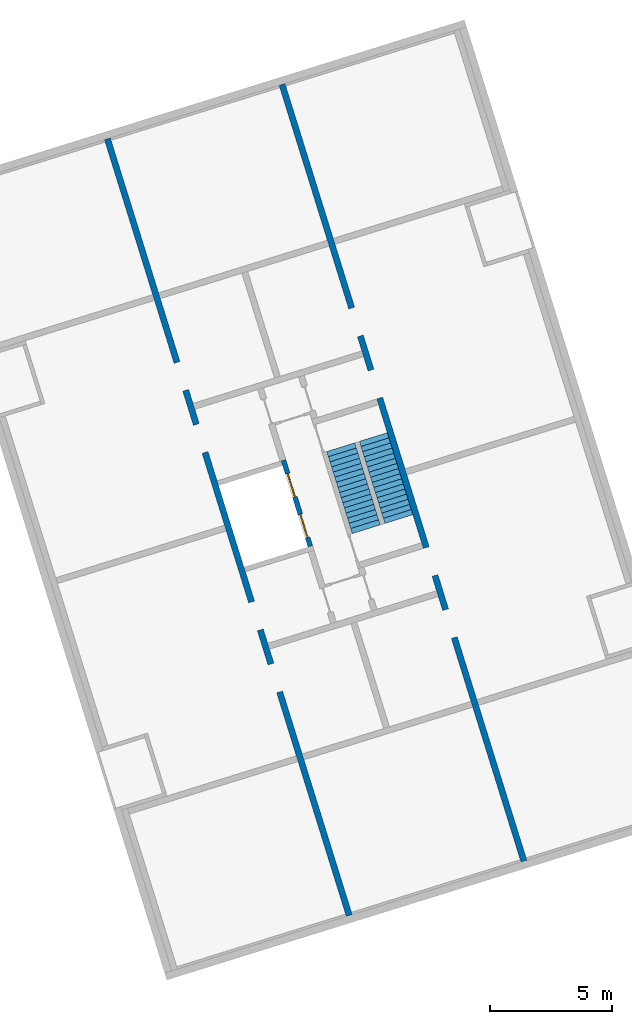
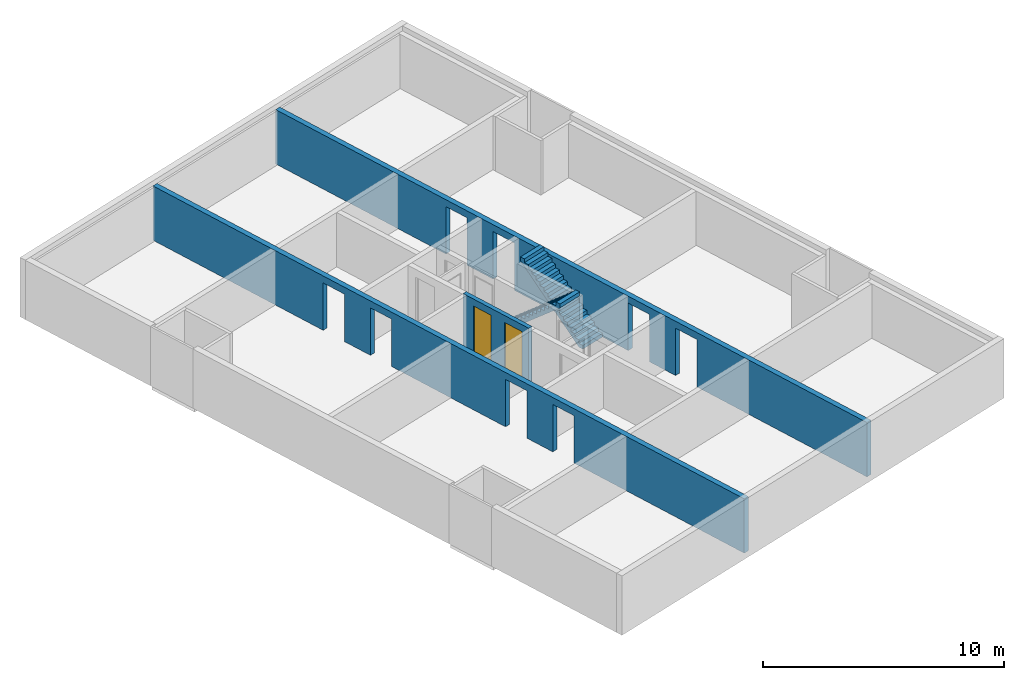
# One storey, part 4 of 4: 3 walls, 2 doors, 2 stair flights, 10 openings, 2 elements without a shape of their own.
"""IFC4 building model written with IfcOpenShell, lengths in metres."""

from ifc_helpers import new_model, entity, si_unit, converted_unit, direction, frame, origin, place, context, subcontext, project, spatial, indexed_curve, outline, extrude, polygons, source, transform, mapped, material, type_object, type_shapes, element, fill, aggregate, save


model = new_model("IFC4")

# Units and contexts
model_context = context("Model", 3, precision=1e-05, world=origin(), true_north=direction((6.12323399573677e-17, 1.0)))
body_context = subcontext(model_context, "Body", "Model", "MODEL_VIEW")
ifc_project = project(units=[si_unit("LENGTHUNIT", "METRE"), si_unit("AREAUNIT", "SQUARE_METRE"), si_unit("VOLUMEUNIT", "CUBIC_METRE"), converted_unit("PLANEANGLEUNIT", "DEGREE", entity("IfcPlaneAngleMeasure", 0.0174532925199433), si_unit("PLANEANGLEUNIT", "RADIAN"), dimensions=[0, 0, 0, 0, 0, 0, 0])], contexts=[model_context])

# Site, building, storey
site_placement = place(None, frame((13.1347999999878, 11.9886000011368, 0.0), z_axis=(0.0, 0.0, 1.0), x_axis=(0.954770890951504, 0.297342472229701, 0.0)))
site = spatial("IfcSite", under=ifc_project, at=site_placement, Name="Schiehaven", CompositionType="ELEMENT")
building_placement = place(site_placement, origin())
building = spatial("IfcBuilding", under=site, at=building_placement, Name="VORM huis", CompositionType="ELEMENT")
storey_placement = place(building_placement, frame((0.0, 0.0, 3.9)))
storey = spatial("IfcBuildingStorey", under=building, at=storey_placement, Name="01 eerste verdieping", CompositionType="ELEMENT", Elevation=3.9)

# Wall, openings
ifc_material_1 = material(Name="beton_gewapend_ihw", Category="Miscellaneous")
wall_type_1 = type_object("IfcWallType", Name="Basic Wall:28_WA_skelet_wand 250mm_gen", PredefinedType="STANDARD")
wall_1_placement = place(storey_placement, frame((12.5, 0.374999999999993, 0.0), z_axis=(0.0, 0.0, 1.0), x_axis=(0.0, 1.0, 0.0)))
wall_1 = element("IfcWall", 1, at=wall_1_placement, inside=storey, type_object=wall_type_1, material=ifc_material_1, Name="Constructieve wand", ObjectType="Wand", PredefinedType="NOTDEFINED", context=body_context, shape_type="Tessellation", body=[
    polygons([(33.3500000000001, -0.125, -5.41433564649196e-16), (33.3500000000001, -0.125, 2.75), (21.95, -0.124999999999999, 2.75), (21.7, -0.124999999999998, 2.75), (11.65, -0.124999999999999, 2.75), (11.4, -0.124999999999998, 2.75), (2.70716782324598e-16, -0.125, 2.75), (2.70716782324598e-16, -0.125, -5.41433564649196e-16), (9.60000000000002, -0.124999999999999, -5.41433564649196e-16), (9.60000000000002, -0.124999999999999, 2.4), (10.8, -0.124999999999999, 2.4), (10.8, -0.124999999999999, -5.41433564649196e-16), (11.4, -0.124999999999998, 0.0), (11.65, -0.124999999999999, 0.0), (12.265, -0.125, -5.41433564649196e-16), (12.265, -0.125, 2.4), (13.465, -0.124999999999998, 2.4), (13.465, -0.125000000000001, -5.41433564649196e-16), (19.885, -0.124999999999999, -5.41433564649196e-16), (19.885, -0.124999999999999, 2.4), (21.085, -0.124999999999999, 2.4), (21.085, -0.124999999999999, -5.41433564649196e-16), (21.7, -0.124999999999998, 0.0), (21.95, -0.124999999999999, 0.0), (22.55, -0.125, -5.41433564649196e-16), (22.55, -0.125, 2.4), (23.75, -0.124999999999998, 2.4), (23.75, -0.124999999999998, -5.41433564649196e-16), (33.3500000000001, 0.125, 2.75), (33.3500000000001, 0.125, -5.41433564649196e-16), (23.75, 0.125000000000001, -5.41433564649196e-16), (23.75, 0.125000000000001, 2.4), (22.55, 0.124999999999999, 2.4), (22.55, 0.124999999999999, -5.41433564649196e-16), (21.085, 0.125, -5.41433564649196e-16), (21.085, 0.125, 2.4), (19.885, 0.125, 2.4), (19.885, 0.125, -5.41433564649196e-16), (13.465, 0.125000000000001, -5.41433564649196e-16), (13.465, 0.125000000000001, 2.4), (12.265, 0.124999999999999, 2.4), (12.265, 0.124999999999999, -5.41433564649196e-16), (10.8, 0.125, -5.41433564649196e-16), (10.8, 0.125, 2.4), (9.60000000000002, 0.125, 2.4), (9.60000000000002, 0.125, -5.41433564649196e-16), (6.76791955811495e-17, 0.125, -5.41433564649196e-16), (6.76791955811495e-17, 0.125, 2.75)], [[[1, 2, 3, 4, 5, 6, 7, 8, 9, 10, 11, 12, 13, 14, 15, 16, 17, 18, 19, 20, 21, 22, 23, 24, 25, 26, 27, 28]], [[29, 30, 31, 32, 33, 34, 35, 36, 37, 38, 39, 40, 41, 42, 43, 44, 45, 46, 47, 48]], [[8, 47, 46, 9]], [[2, 1, 30, 29]], [[7, 6, 5, 4, 3, 2, 29, 48]], [[8, 7, 48, 47]], [[45, 10, 9, 46]], [[11, 44, 43, 12]], [[10, 45, 44, 11]], [[16, 41, 40, 17]], [[41, 16, 15, 42]], [[17, 40, 39, 18]], [[20, 37, 36, 21]], [[37, 20, 19, 38]], [[21, 36, 35, 22]], [[26, 33, 32, 27]], [[33, 26, 25, 34]], [[27, 32, 31, 28]], [[12, 43, 42, 15, 14, 13]], [[18, 39, 38, 19]], [[22, 35, 34, 25, 24, 23]], [[30, 1, 28, 31]]], closed=True),
])
opening_1_placement = place(wall_1_placement, origin())
element("IfcOpeningElement", 2, at=opening_1_placement, cuts=wall_1, Name="Constructieve wand", PredefinedType="OPENING", context=body_context, shape_type="SweptSolid", body=[
    extrude(outline(indexed_curve([(-1.2, -0.599999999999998), (1.2, -0.599999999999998), (1.2, 0.599999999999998), (-1.2, 0.599999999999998), (-1.2, -0.599999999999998)], self_intersect=False)), frame((10.2, -0.124999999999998, 1.2), z_axis=(0.0, 1.0, 0.0), x_axis=(0.0, 0.0, -1.0)), (0.0, 0.0, 1.0), 0.249999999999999),
])
opening_2_placement = place(wall_1_placement, origin())
element("IfcOpeningElement", 3, at=opening_2_placement, cuts=wall_1, Name="Constructieve wand", PredefinedType="OPENING", context=body_context, shape_type="SweptSolid", body=[
    extrude(outline(indexed_curve([(-1.2, -0.599999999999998), (1.2, -0.599999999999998), (1.2, 0.599999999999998), (-1.2, 0.599999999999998), (-1.2, -0.599999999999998)], self_intersect=False)), frame((12.865, -0.124999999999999, 1.2), z_axis=(0.0, 1.0, 0.0), x_axis=(0.0, 0.0, -1.0)), (0.0, 0.0, 1.0), 0.249999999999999),
])
opening_3_placement = place(wall_1_placement, origin())
element("IfcOpeningElement", 4, at=opening_3_placement, cuts=wall_1, Name="Constructieve wand", PredefinedType="OPENING", context=body_context, shape_type="SweptSolid", body=[
    extrude(outline(indexed_curve([(-1.2, -0.599999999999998), (1.2, -0.599999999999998), (1.2, 0.599999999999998), (-1.2, 0.599999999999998), (-1.2, -0.599999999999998)], self_intersect=False)), frame((20.485, -0.125, 1.2), z_axis=(0.0, 1.0, 0.0), x_axis=(0.0, 0.0, -1.0)), (0.0, 0.0, 1.0), 0.249999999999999),
])
opening_4_placement = place(wall_1_placement, origin())
element("IfcOpeningElement", 5, at=opening_4_placement, cuts=wall_1, Name="Constructieve wand", PredefinedType="OPENING", context=body_context, shape_type="SweptSolid", body=[
    extrude(outline(indexed_curve([(-1.2, -0.599999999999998), (1.2, -0.599999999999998), (1.2, 0.599999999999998), (-1.2, 0.599999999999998), (-1.2, -0.599999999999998)], self_intersect=False)), frame((23.15, -0.124999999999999, 1.2), z_axis=(0.0, 1.0, 0.0), x_axis=(0.0, 0.0, -1.0)), (0.0, 0.0, 1.0), 0.249999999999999),
])

wall_2_placement = place(storey_placement, frame((20.0, 33.725, 0.0), z_axis=(0.0, 0.0, 1.0), x_axis=(0.0, -1.0, 0.0)))
wall_2 = element("IfcWall", 6, at=wall_2_placement, inside=storey, type_object=wall_type_1, material=ifc_material_1, Name="Constructieve wand", ObjectType="Wand", PredefinedType="NOTDEFINED", context=body_context, shape_type="Tessellation", body=[
    polygons([(33.35, -0.124999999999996, -5.41433564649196e-16), (33.35, -0.124999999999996, 2.75), (21.95, -0.124999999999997, 2.75), (21.7, -0.124999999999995, 2.75), (11.65, -0.124999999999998, 2.75), (11.4, -0.124999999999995, 2.75), (-4.33146851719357e-15, -0.124999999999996, 2.75), (-4.33146851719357e-15, -0.124999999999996, -5.41433564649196e-16), (9.60000000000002, -0.124999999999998, -5.41433564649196e-16), (9.60000000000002, -0.125000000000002, 2.4), (10.8, -0.124999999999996, 2.4), (10.8, -0.124999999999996, -5.41433564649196e-16), (11.4, -0.124999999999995, 0.0), (11.65, -0.124999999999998, 0.0), (12.265, -0.124999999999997, -5.41433564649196e-16), (12.265, -0.124999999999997, 2.4), (13.465, -0.124999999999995, 2.4), (13.465, -0.124999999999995, -5.41433564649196e-16), (19.885, -0.124999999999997, -5.41433564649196e-16), (19.885, -0.125000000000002, 2.4), (21.085, -0.124999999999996, 2.4), (21.085, -0.124999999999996, -5.41433564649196e-16), (21.7, -0.124999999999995, 0.0), (21.95, -0.124999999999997, 0.0), (22.55, -0.124999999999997, -5.41433564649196e-16), (22.55, -0.124999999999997, 2.4), (23.75, -0.124999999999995, 2.4), (23.75, -0.124999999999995, -5.41433564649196e-16), (33.35, 0.125000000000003, 2.75), (33.35, 0.125000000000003, -5.41433564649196e-16), (23.75, 0.125000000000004, -5.41433564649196e-16), (23.75, 0.125000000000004, 2.4), (22.55, 0.125000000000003, 2.4), (22.55, 0.125000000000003, -5.41433564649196e-16), (21.085, 0.125000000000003, -5.41433564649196e-16), (21.085, 0.125000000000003, 2.4), (19.885, 0.125000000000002, 2.4), (19.885, 0.125000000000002, -5.41433564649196e-16), (13.465, 0.125000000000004, -5.41433564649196e-16), (13.465, 0.125000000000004, 2.4), (12.265, 0.125000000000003, 2.4), (12.265, 0.125000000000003, -5.41433564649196e-16), (10.8, 0.125000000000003, -5.41433564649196e-16), (10.8, 0.125000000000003, 2.4), (9.60000000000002, 0.125000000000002, 2.4), (9.60000000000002, 0.125000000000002, -5.41433564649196e-16), (-4.33146851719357e-15, 0.125000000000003, -5.41433564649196e-16), (-4.33146851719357e-15, 0.125000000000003, 2.75)], [[[1, 2, 3, 4, 5, 6, 7, 8, 9, 10, 11, 12, 13, 14, 15, 16, 17, 18, 19, 20, 21, 22, 23, 24, 25, 26, 27, 28]], [[29, 30, 31, 32, 33, 34, 35, 36, 37, 38, 39, 40, 41, 42, 43, 44, 45, 46, 47, 48]], [[8, 47, 46, 9]], [[2, 1, 30, 29]], [[7, 6, 5, 4, 3, 2, 29, 48]], [[8, 7, 48, 47]], [[10, 45, 44, 11]], [[45, 10, 9, 46]], [[11, 44, 43, 12]], [[16, 41, 40, 17]], [[41, 16, 15, 42]], [[17, 40, 39, 18]], [[26, 33, 32, 27]], [[33, 26, 25, 34]], [[27, 32, 31, 28]], [[20, 37, 36, 21]], [[37, 20, 19, 38]], [[21, 36, 35, 22]], [[12, 43, 42, 15, 14, 13]], [[18, 39, 38, 19]], [[30, 1, 28, 31]], [[34, 25, 24, 23, 22, 35]]], closed=True),
])
opening_5_placement = place(wall_2_placement, origin())
element("IfcOpeningElement", 7, at=opening_5_placement, cuts=wall_2, Name="Constructieve wand", PredefinedType="OPENING", context=body_context, shape_type="SweptSolid", body=[
    extrude(outline(indexed_curve([(-1.2, -0.599999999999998), (1.2, -0.599999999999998), (1.2, 0.599999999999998), (-1.2, 0.599999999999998), (-1.2, -0.599999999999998)], self_intersect=False)), frame((10.2, -0.125000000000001, 1.2), z_axis=(0.0, 1.0, 0.0), x_axis=(0.0, 0.0, -1.0)), (0.0, 0.0, 1.0), 0.250000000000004),
])
opening_6_placement = place(wall_2_placement, origin())
element("IfcOpeningElement", 8, at=opening_6_placement, cuts=wall_2, Name="Constructieve wand", PredefinedType="OPENING", context=body_context, shape_type="SweptSolid", body=[
    extrude(outline(indexed_curve([(-1.2, -0.599999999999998), (1.2, -0.599999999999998), (1.2, 0.599999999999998), (-1.2, 0.599999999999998), (-1.2, -0.599999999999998)], self_intersect=False)), frame((12.865, -0.125, 1.2), z_axis=(0.0, 1.0, 0.0), x_axis=(0.0, 0.0, -1.0)), (0.0, 0.0, 1.0), 0.250000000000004),
])
opening_7_placement = place(wall_2_placement, origin())
element("IfcOpeningElement", 9, at=opening_7_placement, cuts=wall_2, Name="Constructieve wand", PredefinedType="OPENING", context=body_context, shape_type="SweptSolid", body=[
    extrude(outline(indexed_curve([(-1.2, -0.599999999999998), (1.2, -0.599999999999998), (1.2, 0.599999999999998), (-1.2, 0.599999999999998), (-1.2, -0.599999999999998)], self_intersect=False)), frame((23.15, -0.125, 1.2), z_axis=(0.0, 1.0, 0.0), x_axis=(0.0, 0.0, -1.0)), (0.0, 0.0, 1.0), 0.250000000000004),
])
opening_8_placement = place(wall_2_placement, origin())
element("IfcOpeningElement", 10, at=opening_8_placement, cuts=wall_2, Name="Constructieve wand", PredefinedType="OPENING", context=body_context, shape_type="SweptSolid", body=[
    extrude(outline(indexed_curve([(-1.2, -0.599999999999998), (1.2, -0.599999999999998), (1.2, 0.599999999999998), (-1.2, 0.599999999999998), (-1.2, -0.599999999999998)], self_intersect=False)), frame((20.485, -0.125000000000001, 1.2), z_axis=(0.0, 1.0, 0.0), x_axis=(0.0, 0.0, -1.0)), (0.0, 0.0, 1.0), 0.250000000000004),
])

# Wall, openings, doors
ifc_material_2 = material(Name="beton_gewapend_prefab-element", Category="Miscellaneous")
wall_type_2 = type_object("IfcWallType", Name="Basic Wall:28_WA_skelet_wand 200mm_gen", PredefinedType="STANDARD")
wall_3_placement = place(storey_placement, frame((15.4750000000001, 15.3, 0.0), z_axis=(0.0, 0.0, 1.0), x_axis=(0.0, 1.0, 0.0)))
wall_3 = element("IfcWall", 11, at=wall_3_placement, inside=storey, type_object=wall_type_2, material=ifc_material_2, Name="Constructieve wand", ObjectType="Wand", PredefinedType="NOTDEFINED", context=body_context, shape_type="Tessellation", body=[
    polygons([(3.69999999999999, -0.100000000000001, 2.75), (0.0, -0.100000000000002, 2.75), (0.0, -0.100000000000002, -5.41433564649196e-16), (0.374999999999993, -0.0999999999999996, -5.41433564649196e-16), (0.374999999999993, -0.100000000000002, 2.39999999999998), (1.37499999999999, -0.100000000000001, 2.39999999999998), (1.37499999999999, -0.100000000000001, -5.41433564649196e-16), (2.125, -0.100000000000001, -5.41433564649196e-16), (2.125, -0.100000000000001, 2.39999999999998), (3.125, -0.100000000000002, 2.39999999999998), (3.12499999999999, -0.1, -5.41433564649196e-16), (3.69999999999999, -0.100000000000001, -5.41433564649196e-16), (2.16573425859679e-15, 0.0999999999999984, 2.75), (3.49999999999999, 0.0999999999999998, 2.75), (3.69999999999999, 0.0999999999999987, 2.75), (3.69999999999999, 0.0999999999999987, -5.41433564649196e-16), (3.49999999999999, 0.0999999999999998, 0.0), (3.125, 0.0999999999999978, -5.41433564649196e-16), (3.125, 0.0999999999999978, 2.39999999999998), (2.125, 0.0999999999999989, 2.39999999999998), (2.125, 0.0999999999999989, -5.41433564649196e-16), (1.37499999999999, 0.100000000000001, -5.41433564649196e-16), (1.37499999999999, 0.100000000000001, 2.39999999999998), (0.374999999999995, 0.0999999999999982, 2.39999999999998), (0.374999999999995, 0.0999999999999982, -5.41433564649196e-16), (0.0, 0.0999999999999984, -5.41433564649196e-16)], [[[1, 2, 3, 4, 5, 6, 7, 8, 9, 10, 11, 12]], [[13, 14, 15, 16, 17, 18, 19, 20, 21, 22, 23, 24, 25, 26]], [[3, 26, 25, 4]], [[2, 1, 15, 14, 13]], [[3, 2, 13, 26]], [[1, 12, 16, 15]], [[6, 23, 22, 7]], [[24, 5, 4, 25]], [[23, 6, 5, 24]], [[10, 19, 18, 11]], [[20, 9, 8, 21]], [[19, 10, 9, 20]], [[7, 22, 21, 8]], [[16, 12, 11, 18, 17]]], closed=True),
])
opening_9_placement = place(wall_3_placement, frame((-15.3, 15.4750000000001, 0.0), z_axis=(0.0, 0.0, 1.0), x_axis=(0.0, -1.0, 0.0)))
opening_9 = element("IfcOpeningElement", 12, at=opening_9_placement, cuts=wall_3, Name="Brandweerlift", PredefinedType="OPENING", context=body_context, shape_type="SweptSolid", body=[
    extrude(outline(indexed_curve([(-1.19999999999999, -0.499999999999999), (1.19999999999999, -0.499999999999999), (1.19999999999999, 0.500000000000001), (-1.19999999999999, 0.500000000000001), (-1.19999999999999, -0.499999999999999)], self_intersect=False)), frame((15.7436720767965, 16.175, 1.19999999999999), z_axis=(-1.0, 0.0, 0.0), x_axis=(0.0, 0.0, -1.0)), (0.0, 0.0, 1.0), 0.756310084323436),
])
opening_10_placement = place(wall_3_placement, frame((-15.3, 15.4750000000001, 0.0), z_axis=(0.0, 0.0, 1.0), x_axis=(0.0, -1.0, 0.0)))
opening_10 = element("IfcOpeningElement", 13, at=opening_10_placement, cuts=wall_3, Name="Brandweerlift", PredefinedType="OPENING", context=body_context, shape_type="SweptSolid", body=[
    extrude(outline(indexed_curve([(-1.19999999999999, -0.500000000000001), (1.19999999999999, -0.500000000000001), (1.19999999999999, 0.499999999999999), (-1.19999999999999, 0.499999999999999), (-1.19999999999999, -0.500000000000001)], self_intersect=False)), frame((15.7436720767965, 17.925, 1.19999999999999), z_axis=(-1.0, 0.0, 0.0), x_axis=(0.0, 0.0, -1.0)), (0.0, 0.0, 1.0), 0.756310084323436),
])
ifc_material_3 = material(Name="metaal_aluminium_ntb", Category="Miscellaneous")
door_type = type_object("IfcDoorType", Name="66_WI_liftdeur:brandweerlift - tweezijdig toegankelijk", OperationType="NOTDEFINED", PredefinedType="DOOR", material=ifc_material_3)
shared_shape = source(origin(), body_context, "Body", "SweptSolid", [
    extrude(outline(indexed_curve([(-0.0250000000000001, -0.25), (0.0249999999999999, -0.25), (0.0250000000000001, 0.25), (-0.0249999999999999, 0.25), (-0.0250000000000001, -0.25)], self_intersect=False)), frame((0.250000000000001, 0.487638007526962, 0.0), z_axis=(0.0, 0.0, 1.0), x_axis=(0.0, 1.0, 0.0)), (0.0, 0.0, 1.0), 2.39999999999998),
    extrude(outline(indexed_curve([(-0.0250000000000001, -0.25), (0.0249999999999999, -0.25), (0.0250000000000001, 0.25), (-0.0249999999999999, 0.25), (-0.0250000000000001, -0.25)], self_intersect=False)), frame((0.750000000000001, 0.48763800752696, 0.0), z_axis=(0.0, 0.0, 1.0), x_axis=(0.0, 1.0, 0.0)), (0.0, 0.0, 1.0), 2.39999999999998),
])
type_shapes(door_type, [shared_shape])
door_1_placement = place(opening_9_placement, frame((14.9873619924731, 16.675, 0.0), z_axis=(0.0, 0.0, 1.0), x_axis=(0.0, -1.0, 0.0)))
door_1 = element("IfcDoor", 14, at=door_1_placement, inside=storey, type_object=door_type, material=ifc_material_3, Name="Brandweerlift", ObjectType="Transport", OperationType="NOTDEFINED", OverallHeight=2.39999999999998, OverallWidth=1.0, PredefinedType="DOOR", context=body_context, shape_type="MappedRepresentation", body=[
    mapped(shared_shape, transform((0.0, 0.0, 0.0), scale=1.0)),
])
fill(opening_9, door_1)
door_2_placement = place(opening_10_placement, frame((14.9873619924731, 18.425, 0.0), z_axis=(0.0, 0.0, 1.0), x_axis=(0.0, -1.0, 0.0)))
door_2 = element("IfcDoor", 15, at=door_2_placement, inside=storey, type_object=door_type, material=ifc_material_3, Name="Brandweerlift", ObjectType="Transport", OperationType="NOTDEFINED", OverallHeight=2.39999999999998, OverallWidth=1.0, PredefinedType="DOOR", context=body_context, shape_type="MappedRepresentation", body=[
    mapped(shared_shape, transform((0.0, 0.0, 0.0), scale=1.0)),
])
fill(opening_10, door_2)

# Stair, stair flight
stair_type = type_object("IfcStairType", Name="Trap", PredefinedType="STRAIGHT_RUN_STAIR")
stair_1_placement = place(storey_placement, origin())
stair_1 = element("IfcStair", 16, at=stair_1_placement, inside=storey, type_object=stair_type, Name="Hoofdtrap", ObjectType="Trap", PredefinedType="STRAIGHT_RUN_STAIR")
stair_flight_type = type_object("IfcStairFlightType", Name="Monolithic Run:NLRS_24_STRR_trap-beton prefab-monolithisch-recht_gen_rsf", PredefinedType="STRAIGHT")
stair_flight_1_placement = place(stair_1_placement, frame((18.6750000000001, 15.29, 0.0)))
stair_flight_1 = element("IfcStairFlight", 17, at=stair_flight_1_placement, type_object=stair_flight_type, material=ifc_material_2, Name="Hoofdtrap Run 1", ObjectType="Monolithic Run:NLRS_24_STRR_trap-beton prefab-monolithisch-recht_gen_rsf", PredefinedType="STRAIGHT", context=body_context, shape_type="Tessellation", body=[
    polygons([(3.5527136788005e-15, 0.219999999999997, 0.1875), (0.0, -1.77635683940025e-15, 0.1875), (1.2, -1.77635683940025e-15, 0.1875), (1.2, 0.219999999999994, 0.1875), (3.5527136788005e-15, 0.220000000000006, -4.44089209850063e-16), (0.0, -1.77635683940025e-15, -4.44089209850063e-16), (1.2, -1.77635683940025e-15, -4.44089209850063e-16), (1.2, 0.219999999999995, -4.44089209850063e-16), (3.5527136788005e-15, 0.44, 0.375), (0.0, 0.219999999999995, 0.375), (1.2, 0.219999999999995, 0.375), (1.2, 0.439999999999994, 0.375), (3.5527136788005e-15, 0.44, 0.177912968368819), (3.5527136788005e-15, 0.231248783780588, 8.88178419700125e-16), (1.2, 0.231248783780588, 8.88178419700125e-16), (1.2, 0.439999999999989, 0.177912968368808), (3.5527136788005e-15, 0.659999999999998, 0.5625), (3.5527136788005e-15, 0.44, 0.5625), (1.20000000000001, 0.44, 0.5625), (1.20000000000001, 0.659999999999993, 0.5625), (7.105427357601e-15, 0.660000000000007, 0.365412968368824), (1.20000000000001, 0.659999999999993, 0.365412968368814), (3.5527136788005e-15, 0.880000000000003, 0.75), (3.5527136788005e-15, 0.659999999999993, 0.75), (1.20000000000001, 0.659999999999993, 0.75), (1.20000000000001, 0.879999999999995, 0.75), (7.105427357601e-15, 0.880000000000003, 0.55291296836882), (1.20000000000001, 0.879999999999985, 0.552912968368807), (7.105427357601e-15, 1.1, 0.9375), (7.105427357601e-15, 0.880000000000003, 0.9375), (1.20000000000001, 0.880000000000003, 0.9375), (1.20000000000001, 1.09999999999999, 0.9375), (7.105427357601e-15, 1.10000000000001, 0.740412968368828), (1.20000000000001, 1.1, 0.740412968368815), (7.105427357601e-15, 1.32, 1.125), (7.105427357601e-15, 1.09999999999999, 1.125), (1.20000000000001, 1.09999999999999, 1.125), (1.20000000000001, 1.31999999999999, 1.125), (7.105427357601e-15, 1.32, 0.92791296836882), (1.20000000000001, 1.31999999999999, 0.927912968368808), (1.06581410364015e-14, 1.54, 1.3125), (7.105427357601e-15, 1.32, 1.3125), (1.20000000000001, 1.32, 1.3125), (1.20000000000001, 1.54, 1.3125), (1.06581410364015e-14, 1.54000000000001, 1.11541296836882), (1.20000000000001, 1.54, 1.11541296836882), (1.06581410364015e-14, 1.76, 1.5), (7.105427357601e-15, 1.54, 1.5), (1.20000000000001, 1.54, 1.5), (1.20000000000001, 1.75999999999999, 1.5), (1.06581410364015e-14, 1.75999999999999, 1.30291296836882), (1.20000000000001, 1.75999999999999, 1.30291296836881), (1.06581410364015e-14, 1.98, 1.6875), (1.06581410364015e-14, 1.76, 1.6875), (1.20000000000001, 1.76, 1.6875), (1.20000000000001, 1.97999999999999, 1.6875), (1.06581410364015e-14, 1.98000000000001, 1.49041296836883), (1.20000000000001, 1.98, 1.49041296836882), (1.06581410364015e-14, 2.2, 1.875), (1.06581410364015e-14, 1.97999999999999, 1.875), (1.20000000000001, 1.97999999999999, 1.875), (1.20000000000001, 2.19999999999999, 1.875), (1.06581410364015e-14, 2.2, 1.67791296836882), (1.20000000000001, 2.19999999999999, 1.67791296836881), (1.4210854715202e-14, 2.42, 2.0625), (1.06581410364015e-14, 2.2, 2.0625), (1.20000000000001, 2.2, 2.0625), (1.20000000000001, 2.41999999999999, 2.0625), (1.06581410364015e-14, 2.42000000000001, 1.86541296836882), (1.20000000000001, 2.42, 1.86541296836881), (1.4210854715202e-14, 2.64, 2.25), (1.06581410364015e-14, 2.41999999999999, 2.25), (1.20000000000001, 2.41999999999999, 2.25), (1.20000000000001, 2.63999999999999, 2.25), (1.06581410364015e-14, 2.64, 2.05291296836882), (1.20000000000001, 2.63999999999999, 2.05291296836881), (1.4210854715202e-14, 2.86, 2.4375), (1.06581410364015e-14, 2.64, 2.4375), (1.20000000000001, 2.64, 2.4375), (1.20000000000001, 2.85999999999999, 2.4375), (1.4210854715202e-14, 2.86000000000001, 2.24041296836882), (1.20000000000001, 2.86, 2.24041296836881), (1.4210854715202e-14, 3.08, 2.625), (1.06581410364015e-14, 2.85999999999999, 2.625), (1.20000000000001, 2.85999999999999, 2.625), (1.20000000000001, 3.07999999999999, 2.625), (1.4210854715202e-14, 3.08, 2.42791296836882), (1.20000000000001, 3.07999999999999, 2.42791296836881), (1.77635683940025e-14, 3.3, 2.8125), (1.4210854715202e-14, 3.08, 2.8125), (1.20000000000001, 3.08, 2.8125), (1.20000000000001, 3.29999999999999, 2.8125), (1.77635683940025e-14, 3.30000000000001, 2.61541296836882), (1.20000000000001, 3.29999999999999, 2.61541296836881), (1.77635683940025e-14, 3.52, 3.0), (1.4210854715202e-14, 3.29999999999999, 3.0), (1.20000000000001, 3.29999999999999, 3.0), (1.20000000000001, 3.51999999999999, 3.0), (1.4210854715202e-14, 3.52, 2.80291296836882), (1.20000000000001, 3.51999999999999, 2.80291296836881)], [[[1, 2, 3, 4]], [[2, 1, 5, 6]], [[3, 2, 6, 7]], [[4, 3, 7, 8]], [[9, 10, 11, 12]], [[5, 1, 10, 9, 13, 14]], [[1, 4, 11, 10]], [[4, 8, 15, 16, 12, 11]], [[17, 18, 19, 20]], [[18, 17, 21, 13, 9]], [[9, 12, 19, 18]], [[20, 19, 12, 16, 22]], [[23, 24, 25, 26]], [[24, 23, 27, 21, 17]], [[17, 20, 25, 24]], [[26, 25, 20, 22, 28]], [[29, 30, 31, 32]], [[30, 29, 33, 27, 23]], [[23, 26, 31, 30]], [[32, 31, 26, 28, 34]], [[35, 36, 37, 38]], [[36, 35, 39, 33, 29]], [[29, 32, 37, 36]], [[38, 37, 32, 34, 40]], [[41, 42, 43, 44]], [[42, 41, 45, 39, 35]], [[35, 38, 43, 42]], [[44, 43, 38, 40, 46]], [[47, 48, 49, 50]], [[48, 47, 51, 45, 41]], [[41, 44, 49, 48]], [[50, 49, 44, 46, 52]], [[53, 54, 55, 56]], [[54, 53, 57, 51, 47]], [[47, 50, 55, 54]], [[56, 55, 50, 52, 58]], [[59, 60, 61, 62]], [[60, 59, 63, 57, 53]], [[53, 56, 61, 60]], [[62, 61, 56, 58, 64]], [[65, 66, 67, 68]], [[66, 65, 69, 63, 59]], [[59, 62, 67, 66]], [[68, 67, 62, 64, 70]], [[71, 72, 73, 74]], [[72, 71, 75, 69, 65]], [[65, 68, 73, 72]], [[74, 73, 68, 70, 76]], [[77, 78, 79, 80]], [[78, 77, 81, 75, 71]], [[71, 74, 79, 78]], [[80, 79, 74, 76, 82]], [[83, 84, 85, 86]], [[84, 83, 87, 81, 77]], [[77, 80, 85, 84]], [[86, 85, 80, 82, 88]], [[89, 90, 91, 92]], [[90, 89, 93, 87, 83]], [[83, 86, 91, 90]], [[92, 91, 86, 88, 94]], [[95, 96, 97, 98]], [[96, 95, 99, 93, 89]], [[89, 92, 97, 96]], [[98, 97, 92, 94, 100]], [[95, 98, 100, 99]], [[6, 5, 14, 15, 8, 7]], [[15, 14, 13, 21, 27, 33, 39, 45, 51, 57, 63, 69, 75, 81, 87, 93, 99, 100, 94, 88, 82, 76, 70, 64, 58, 52, 46, 40, 34, 28, 22, 16]]], closed=True),
])
aggregate(stair_1, [stair_flight_1])

stair_2_placement = place(storey_placement, origin())
stair_2 = element("IfcStair", 18, at=stair_2_placement, inside=storey, type_object=stair_type, Name="Hoofdtrap", ObjectType="Trap", PredefinedType="STRAIGHT_RUN_STAIR")
stair_flight_2_placement = place(stair_2_placement, frame((17.2750000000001, 15.29, 0.0)))
stair_flight_2 = element("IfcStairFlight", 19, at=stair_flight_2_placement, type_object=stair_flight_type, material=ifc_material_2, Name="Hoofdtrap Run 1", ObjectType="Monolithic Run:NLRS_24_STRR_trap-beton prefab-monolithisch-recht_gen_rsf", PredefinedType="STRAIGHT", context=body_context, shape_type="Tessellation", body=[
    polygons([(1.20000000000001, 3.3, 0.1875), (1.20000000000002, 3.52, 0.1875), (1.4210854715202e-14, 3.52, 0.1875), (1.4210854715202e-14, 3.30000000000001, 0.1875), (1.20000000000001, 3.29999999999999, -4.44089209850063e-16), (1.20000000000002, 3.52, -4.44089209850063e-16), (1.4210854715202e-14, 3.52, -4.44089209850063e-16), (1.4210854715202e-14, 3.30000000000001, -4.44089209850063e-16), (1.20000000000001, 3.08, 0.375), (1.20000000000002, 3.30000000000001, 0.375), (1.4210854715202e-14, 3.30000000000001, 0.375), (1.4210854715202e-14, 3.08000000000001, 0.375), (1.20000000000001, 3.08000000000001, 0.177912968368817), (1.20000000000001, 3.28875121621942, -4.44089209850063e-16), (1.4210854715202e-14, 3.28875121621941, -4.44089209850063e-16), (1.4210854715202e-14, 3.08000000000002, 0.177912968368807), (1.20000000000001, 2.86, 0.5625), (1.20000000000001, 3.08, 0.5625), (1.06581410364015e-14, 3.08, 0.5625), (1.06581410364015e-14, 2.86000000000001, 0.5625), (1.20000000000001, 2.86, 0.365412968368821), (1.06581410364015e-14, 2.86000000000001, 0.365412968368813), (1.20000000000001, 2.64, 0.75), (1.20000000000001, 2.86000000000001, 0.75), (1.06581410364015e-14, 2.86000000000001, 0.75), (1.06581410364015e-14, 2.64000000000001, 0.75), (1.20000000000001, 2.64, 0.55291296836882), (1.06581410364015e-14, 2.64000000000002, 0.552912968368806), (1.20000000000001, 2.42, 0.9375), (1.20000000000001, 2.64, 0.9375), (1.06581410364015e-14, 2.64, 0.9375), (1.06581410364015e-14, 2.42000000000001, 0.9375), (1.20000000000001, 2.41999999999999, 0.740412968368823), (1.06581410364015e-14, 2.42000000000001, 0.740412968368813), (1.20000000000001, 2.2, 1.125), (1.20000000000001, 2.42000000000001, 1.125), (1.06581410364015e-14, 2.42000000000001, 1.125), (1.06581410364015e-14, 2.20000000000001, 1.125), (1.20000000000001, 2.2, 0.927912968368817), (7.105427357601e-15, 2.20000000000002, 0.927912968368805), (1.20000000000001, 1.98, 1.3125), (1.20000000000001, 2.2, 1.3125), (7.105427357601e-15, 2.2, 1.3125), (7.105427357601e-15, 1.98000000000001, 1.3125), (1.2, 1.97999999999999, 1.11541296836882), (7.105427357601e-15, 1.98000000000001, 1.11541296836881), (1.20000000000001, 1.76, 1.5), (1.20000000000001, 1.98000000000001, 1.5), (7.105427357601e-15, 1.98000000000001, 1.5), (7.105427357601e-15, 1.76000000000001, 1.5), (1.2, 1.76, 1.30291296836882), (7.105427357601e-15, 1.76000000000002, 1.30291296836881), (1.2, 1.54, 1.6875), (1.2, 1.76, 1.6875), (7.105427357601e-15, 1.76, 1.6875), (7.105427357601e-15, 1.54000000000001, 1.6875), (1.2, 1.54, 1.49041296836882), (7.105427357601e-15, 1.54000000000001, 1.49041296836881), (1.2, 1.32, 1.875), (1.2, 1.54000000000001, 1.875), (7.105427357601e-15, 1.54000000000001, 1.875), (7.105427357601e-15, 1.32000000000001, 1.875), (1.2, 1.32, 1.67791296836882), (7.105427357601e-15, 1.32000000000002, 1.67791296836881), (1.2, 1.1, 2.0625), (1.2, 1.32, 2.0625), (3.5527136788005e-15, 1.32, 2.0625), (3.5527136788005e-15, 1.10000000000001, 2.0625), (1.2, 1.1, 1.86541296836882), (3.5527136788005e-15, 1.10000000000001, 1.86541296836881), (1.2, 0.880000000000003, 2.25), (1.2, 1.10000000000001, 2.25), (3.5527136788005e-15, 1.10000000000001, 2.25), (3.5527136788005e-15, 0.88000000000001, 2.25), (1.2, 0.880000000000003, 2.05291296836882), (3.5527136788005e-15, 0.880000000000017, 2.05291296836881), (1.2, 0.660000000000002, 2.4375), (1.2, 0.880000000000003, 2.4375), (0.0, 0.880000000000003, 2.4375), (0.0, 0.660000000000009, 2.4375), (1.2, 0.659999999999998, 2.24041296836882), (0.0, 0.660000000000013, 2.24041296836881), (1.2, 0.440000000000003, 2.625), (1.2, 0.660000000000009, 2.625), (0.0, 0.660000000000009, 2.625), (0.0, 0.440000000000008, 2.625), (1.2, 0.440000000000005, 2.42791296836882), (0.0, 0.440000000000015, 2.42791296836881), (1.2, 0.220000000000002, 2.8125), (1.2, 0.440000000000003, 2.8125), (0.0, 0.440000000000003, 2.8125), (0.0, 0.22000000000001, 2.8125), (1.2, 0.219999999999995, 2.61541296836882), (0.0, 0.220000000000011, 2.61541296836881), (1.2, 0.0, 3.0), (1.2, 0.22000000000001, 3.0), (0.0, 0.22000000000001, 3.0), (0.0, 1.06581410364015e-14, 3.0), (1.2, 0.0, 2.80291296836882), (0.0, 1.06581410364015e-14, 2.80291296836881)], [[[1, 2, 3, 4]], [[2, 1, 5, 6]], [[3, 2, 6, 7]], [[4, 3, 7, 8]], [[9, 10, 11, 12]], [[5, 1, 10, 9, 13, 14]], [[1, 4, 11, 10]], [[4, 8, 15, 16, 12, 11]], [[17, 18, 19, 20]], [[18, 17, 21, 13, 9]], [[9, 12, 19, 18]], [[20, 19, 12, 16, 22]], [[23, 24, 25, 26]], [[24, 23, 27, 21, 17]], [[17, 20, 25, 24]], [[26, 25, 20, 22, 28]], [[29, 30, 31, 32]], [[30, 29, 33, 27, 23]], [[23, 26, 31, 30]], [[32, 31, 26, 28, 34]], [[35, 36, 37, 38]], [[36, 35, 39, 33, 29]], [[29, 32, 37, 36]], [[38, 37, 32, 34, 40]], [[41, 42, 43, 44]], [[42, 41, 45, 39, 35]], [[35, 38, 43, 42]], [[44, 43, 38, 40, 46]], [[47, 48, 49, 50]], [[48, 47, 51, 45, 41]], [[41, 44, 49, 48]], [[50, 49, 44, 46, 52]], [[53, 54, 55, 56]], [[54, 53, 57, 51, 47]], [[47, 50, 55, 54]], [[56, 55, 50, 52, 58]], [[59, 60, 61, 62]], [[60, 59, 63, 57, 53]], [[53, 56, 61, 60]], [[62, 61, 56, 58, 64]], [[65, 66, 67, 68]], [[66, 65, 69, 63, 59]], [[59, 62, 67, 66]], [[68, 67, 62, 64, 70]], [[71, 72, 73, 74]], [[72, 71, 75, 69, 65]], [[65, 68, 73, 72]], [[74, 73, 68, 70, 76]], [[77, 78, 79, 80]], [[78, 77, 81, 75, 71]], [[71, 74, 79, 78]], [[80, 79, 74, 76, 82]], [[83, 84, 85, 86]], [[84, 83, 87, 81, 77]], [[77, 80, 85, 84]], [[86, 85, 80, 82, 88]], [[89, 90, 91, 92]], [[90, 89, 93, 87, 83]], [[83, 86, 91, 90]], [[92, 91, 86, 88, 94]], [[95, 96, 97, 98]], [[96, 95, 99, 93, 89]], [[89, 92, 97, 96]], [[98, 97, 92, 94, 100]], [[95, 98, 100, 99]], [[6, 5, 14, 15, 8, 7]], [[15, 14, 13, 21, 27, 33, 39, 45, 51, 57, 63, 69, 75, 81, 87, 93, 99, 100, 94, 88, 82, 76, 70, 64, 58, 52, 46, 40, 34, 28, 22, 16]]], closed=True),
])
aggregate(stair_2, [stair_flight_2])

save(model, "model.ifc")
